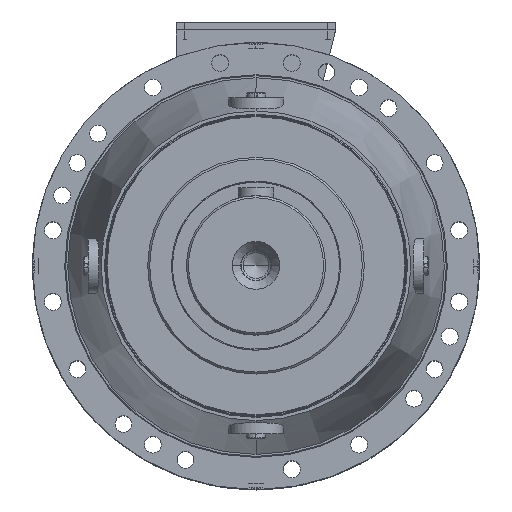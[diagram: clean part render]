
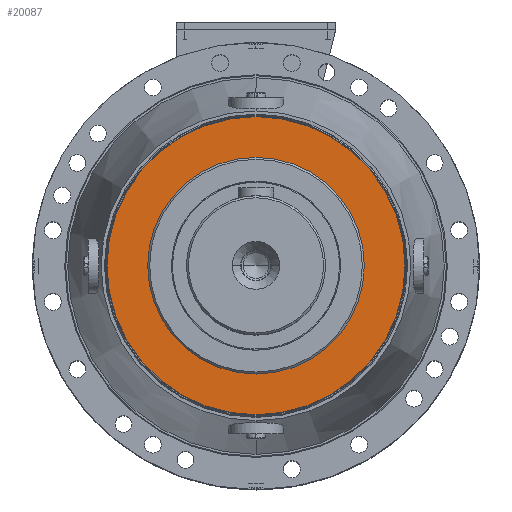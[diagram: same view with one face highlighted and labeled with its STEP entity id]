
A CAD part, top view. The second image highlights one B-rep face of the part: STEP entity #20087.
In plain terms, the highlighted planar face has unit normal (0, 0, 1).
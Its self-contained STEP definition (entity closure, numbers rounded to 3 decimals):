
#20087 = ADVANCED_FACE ( 'NONE', ( #164747, #164778 ), #31505, .F. ) ;
#30317 = CARTESIAN_POINT ( 'NONE',  ( 0., 0., 220. ) ) ;
#30319 = DIRECTION ( 'NONE',  ( 0., 1., 0. ) ) ;
#30331 = DIRECTION ( 'NONE',  ( 0., 0., -1. ) ) ;
#31498 = DIRECTION ( 'NONE',  ( 0., 0., -1. ) ) ;
#31505 = PLANE ( 'NONE',  #177241 ) ;
#31526 = CARTESIAN_POINT ( 'NONE',  ( 0., 150., 220. ) ) ;
#31555 = DIRECTION ( 'NONE',  ( 0., 1., 0. ) ) ;
#35662 = EDGE_CURVE ( 'NONE', #75455, #75490, #113654, .T. ) ;
#35694 = EDGE_CURVE ( 'NONE', #75452, #75469, #113727, .T. ) ;
#35724 = EDGE_CURVE ( 'NONE', #75490, #75455, #113695, .T. ) ;
#35727 = EDGE_CURVE ( 'NONE', #75469, #75452, #113738, .T. ) ;
#37019 = CARTESIAN_POINT ( 'NONE',  ( 0., 0., 220. ) ) ;
#37045 = DIRECTION ( 'NONE',  ( 0., 0., 1. ) ) ;
#37066 = DIRECTION ( 'NONE',  ( 0., 1., 0. ) ) ;
#37218 = DIRECTION ( 'NONE',  ( 0., 0., 1. ) ) ;
#37228 = DIRECTION ( 'NONE',  ( 0., 0., -1. ) ) ;
#37231 = CARTESIAN_POINT ( 'NONE',  ( 0., 0., 220. ) ) ;
#37242 = DIRECTION ( 'NONE',  ( 0., 1., 0. ) ) ;
#37253 = DIRECTION ( 'NONE',  ( 0., 1., 0. ) ) ;
#37264 = CARTESIAN_POINT ( 'NONE',  ( 0., 0., 220. ) ) ;
#48866 = CARTESIAN_POINT ( 'NONE',  ( 0., 109., 220. ) ) ;
#48909 = CARTESIAN_POINT ( 'NONE',  ( 0., 150., 220. ) ) ;
#48915 = CARTESIAN_POINT ( 'NONE',  ( 0., -109., 220. ) ) ;
#49050 = CARTESIAN_POINT ( 'NONE',  ( 0., -150., 220. ) ) ;
#75452 = VERTEX_POINT ( 'NONE', #48866 ) ;
#75455 = VERTEX_POINT ( 'NONE', #48909 ) ;
#75469 = VERTEX_POINT ( 'NONE', #48915 ) ;
#75490 = VERTEX_POINT ( 'NONE', #49050 ) ;
#82326 = EDGE_LOOP ( 'NONE', ( #123445, #123495 ) ) ;
#82592 = EDGE_LOOP ( 'NONE', ( #123662, #123594 ) ) ;
#113654 = CIRCLE ( 'NONE', #141897, 150. ) ;
#113695 = CIRCLE ( 'NONE', #142068, 150. ) ;
#113727 = CIRCLE ( 'NONE', #141921, 109. ) ;
#113738 = CIRCLE ( 'NONE', #142062, 109. ) ;
#123445 = ORIENTED_EDGE ( 'NONE', *, *, #35694, .F. ) ;
#123495 = ORIENTED_EDGE ( 'NONE', *, *, #35727, .F. ) ;
#123594 = ORIENTED_EDGE ( 'NONE', *, *, #35724, .F. ) ;
#123662 = ORIENTED_EDGE ( 'NONE', *, *, #35662, .F. ) ;
#141897 = AXIS2_PLACEMENT_3D ( 'NONE', #30317, #30331, #30319 ) ;
#141921 = AXIS2_PLACEMENT_3D ( 'NONE', #37019, #37045, #37066 ) ;
#142062 = AXIS2_PLACEMENT_3D ( 'NONE', #37231, #37218, #37242 ) ;
#142068 = AXIS2_PLACEMENT_3D ( 'NONE', #37264, #37228, #37253 ) ;
#164747 = FACE_BOUND ( 'NONE', #82326, .T. ) ;
#164778 = FACE_OUTER_BOUND ( 'NONE', #82592, .T. ) ;
#177241 = AXIS2_PLACEMENT_3D ( 'NONE', #31526, #31498, #31555 ) ;
